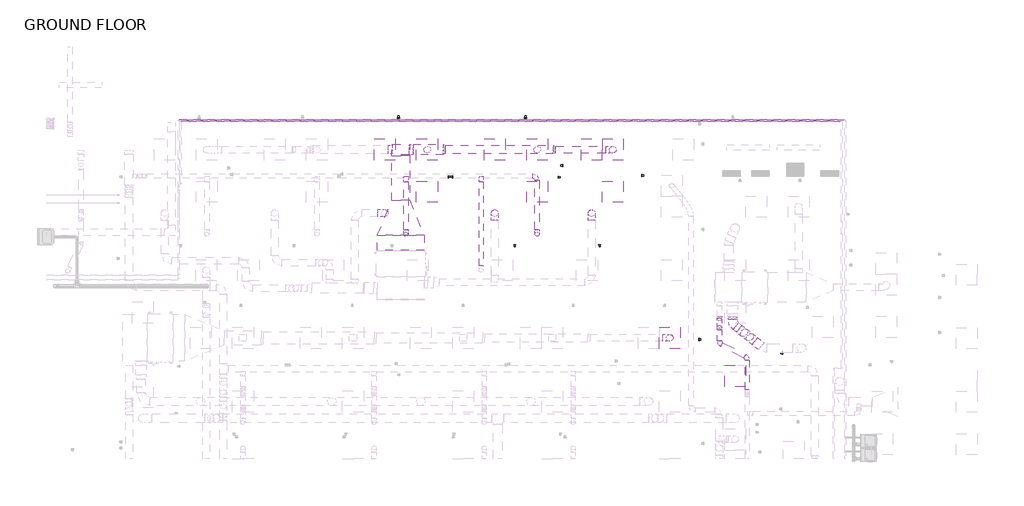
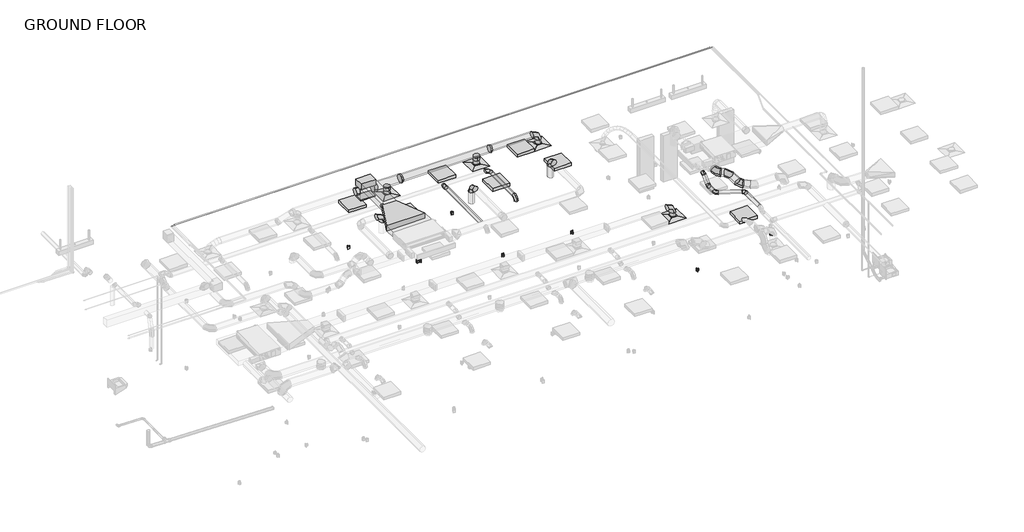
# One storey, part 18 of 21: 26 duct fittings, 25 duct segments, 9 proxies, 7 light fixtures, 4 air terminals, 2 pipe segments, 2 switching devices.
"""IFC4 building model written with IfcOpenShell, lengths in millimetres."""

from ifc_helpers import new_model, si_unit, point, frame, frame_2d, origin, place, context, project, spatial, polyline, circle_curve, trimmed, segment, composite_curve, outline, extrude, transform, mapped, element, save
from components import air_terminal_e9020785, duplex_receptacle_countertop_10251bba, rectangular_elbow_mitered_transition_standard_1af59134, rectangular_endcap_standard_fc39317d, rectangular_transition_angle_45_degree_5314cfe0, round_elbow_1_d_feab72b3, round_elbow_1_d_a253342a, round_elbow_1_d_c80420c1, round_elbow_1_d_ea3dccb8, round_elbow_1_d_af7a7a65, round_elbow_1_d_21bb6db6, round_takeoff_standard_5e8805d5, round_takeoff_standard_98831ccd, round_takeoff_standard_a75a9c41, round_takeoff_standard_ca4b4131, round_takeoff_standard_17dc06e3, round_transition_angle_45_degree_a6ab1efb, round_transition_angle_45_degree_2c0294df, troffer_corner_insert_2x2_3lamp_e67c7f8f

model = new_model("IFC4")

# Units and contexts
model_context = context("Model", 3, world=origin())
ifc_project = project(units=[si_unit("LENGTHUNIT", "METRE", prefix="MILLI")], contexts=[model_context])

# Site, building, storey
site = spatial("IfcSite", under=ifc_project)
building = spatial("IfcBuilding", under=site)
storey = spatial("IfcBuildingStorey", under=building, Name="GROUND FLOOR", Elevation=30480.0)

# Air terminals
placement = place(None, origin())
air_terminal_shape = air_terminal_e9020785(model_context)
element("IfcAirTerminal", 1, ObjectType="Supply Diffuser - Rectangular Face Round Neck - Hosted : 24\"x24\" Face 8\" Neck - Hosted", at=placement, inside=storey, context=model_context, shape_type="MappedRepresentation", body=[
    mapped(air_terminal_shape, transform((6687.5045393, 6811.3695005, 33223.2), x_axis=(0.0, -1.0, 0.0), y_axis=(-1.0, 0.0, 0.0), z_axis=(0.0, 0.0, -1.0))),
])
element("IfcAirTerminal", 2, ObjectType="Supply Diffuser - Rectangular Face Round Neck - Hosted : 24\"x24\" Face 8\" Neck - Hosted", at=placement, inside=storey, context=model_context, shape_type="MappedRepresentation", body=[
    mapped(air_terminal_shape, transform((1334.4545393, 6811.3695005, 33223.2), x_axis=(0.0, -1.0, 0.0), y_axis=(-1.0, 0.0, 0.0), z_axis=(0.0, 0.0, -1.0))),
])
element("IfcAirTerminal", 3, ObjectType="Supply Diffuser - Rectangular Face Round Neck - Hosted : 24\"x24\" Face 8\" Neck - Hosted", at=placement, inside=storey, context=model_context, shape_type="MappedRepresentation", body=[
    mapped(air_terminal_shape, transform((4506.2795393, 6811.3695005, 33223.2), x_axis=(0.0, -1.0, 0.0), y_axis=(-1.0, 0.0, 0.0), z_axis=(0.0, 0.0, -1.0))),
])
element("IfcAirTerminal", 4, ObjectType="Supply Diffuser - Rectangular Face Round Neck - Hosted : 24\"x24\" Face 8\" Neck - Hosted", at=placement, inside=storey, context=model_context, shape_type="MappedRepresentation", body=[
    mapped(air_terminal_shape, transform((8328.8671727, 1382.1195005, 33223.2), x_axis=(0.0, -1.0, 0.0), y_axis=(-1.0, 0.0, 0.0), z_axis=(0.0, 0.0, -1.0))),
])

# Proxies
duplex_receptacle_countertop_shape = duplex_receptacle_countertop_10251bba(model_context)
element("IfcBuildingElementProxy", 5, Name="Duplex Receptacle : Countertop", ObjectType="Duplex Receptacle : Countertop", at=placement, inside=storey, context=model_context, shape_type="MappedRepresentation", body=[
    mapped(duplex_receptacle_countertop_shape, transform((11573.8295393, 941.1895793, 31699.2), x_axis=(0.0, 1.0, 0.0), y_axis=(0.0, 0.0, 1.0), z_axis=(1.0, 0.0, 0.0))),
])
element("IfcBuildingElementProxy", 6, Name="Duplex Receptacle : Standard", ObjectType="Duplex Receptacle : Standard", at=placement, inside=storey, context=model_context, shape_type="MappedRepresentation", body=[
    mapped(duplex_receptacle_countertop_shape, transform((9173.5295393, 1338.7424206, 30937.2), x_axis=(0.0, -1.0, 0.0), y_axis=(0.0, 0.0, 1.0), z_axis=(-1.0, 0.0, 0.0))),
])
element("IfcBuildingElementProxy", 7, Name="Duplex Receptacle : Standard", ObjectType="Duplex Receptacle : Standard", at=placement, inside=storey, context=model_context, shape_type="MappedRepresentation", body=[
    mapped(duplex_receptacle_countertop_shape, transform((512.696222, 7725.7695005, 30937.2), x_axis=(-1.0, 0.0, 0.0), y_axis=(0.0, 0.0, -1.0), z_axis=(0.0, -1.0, 0.0))),
])
element("IfcBuildingElementProxy", 8, Name="Duplex Receptacle : Standard", ObjectType="Duplex Receptacle : Standard", at=placement, inside=storey, context=model_context, shape_type="MappedRepresentation", body=[
    mapped(duplex_receptacle_countertop_shape, transform((2067.8795393, 6025.6008767, 30937.2), x_axis=(0.0, 1.0, 0.0), y_axis=(0.0, 0.0, 1.0), z_axis=(1.0, 0.0, 0.0))),
])
element("IfcBuildingElementProxy", 9, Name="Duplex Receptacle : Standard", ObjectType="Duplex Receptacle : Standard", at=placement, inside=storey, context=model_context, shape_type="MappedRepresentation", body=[
    mapped(duplex_receptacle_countertop_shape, transform((1944.0545393, 6025.6008767, 30937.2), x_axis=(0.0, -1.0, 0.0), y_axis=(0.0, 0.0, 1.0), z_axis=(-1.0, 0.0, 0.0))),
])
element("IfcBuildingElementProxy", 10, Name="Duplex Receptacle : Standard", ObjectType="Duplex Receptacle : Standard", at=placement, inside=storey, context=model_context, shape_type="MappedRepresentation", body=[
    mapped(duplex_receptacle_countertop_shape, transform((4175.0747127, 7725.7695005, 30937.2), x_axis=(-1.0, 0.0, 0.0), y_axis=(0.0, 0.0, -1.0), z_axis=(0.0, -1.0, 0.0))),
])
element("IfcBuildingElementProxy", 11, Name="Duplex Receptacle : Standard", ObjectType="Duplex Receptacle : Standard", at=placement, inside=storey, context=model_context, shape_type="MappedRepresentation", body=[
    mapped(duplex_receptacle_countertop_shape, transform((5115.8795393, 6012.9284472, 30937.2), x_axis=(0.0, -1.0, 0.0), y_axis=(0.0, 0.0, 1.0), z_axis=(-1.0, 0.0, 0.0))),
])
element("IfcBuildingElementProxy", 12, Name="Duplex Receptacle : Standard", ObjectType="Duplex Receptacle : Standard", at=placement, inside=storey, context=model_context, shape_type="MappedRepresentation", body=[
    mapped(duplex_receptacle_countertop_shape, transform((5239.7045393, 6355.0840427, 30937.2), x_axis=(0.0, 1.0, 0.0), y_axis=(0.0, 0.0, 1.0), z_axis=(1.0, 0.0, 0.0))),
])
element("IfcBuildingElementProxy", 13, Name="Duplex Receptacle : Standard", ObjectType="Duplex Receptacle : Standard", at=placement, inside=storey, context=model_context, shape_type="MappedRepresentation", body=[
    mapped(duplex_receptacle_countertop_shape, transform((7525.7045393, 6063.6181651, 30937.2), x_axis=(0.0, -1.0, 0.0), y_axis=(0.0, 0.0, 1.0), z_axis=(-1.0, 0.0, 0.0))),
])

# Duct fittings
rectangular_elbow_mitered_transition_standard_shape = rectangular_elbow_mitered_transition_standard_1af59134(model_context)
element("IfcDuctFitting", 14, ObjectType="Rectangular Elbow - Mitered - Transition : Standard", at=placement, inside=storey, context=model_context, shape_type="MappedRepresentation", body=[
    mapped(rectangular_elbow_mitered_transition_standard_shape, transform((575.9935718, 6811.3695005, 33934.4), x_axis=(0.0, 1.0, 0.0), y_axis=(0.0, 0.0, -1.0), z_axis=(-1.0, 0.0, 0.0))),
])
rectangular_endcap_standard_shape = rectangular_endcap_standard_fc39317d(model_context)
element("IfcDuctFitting", 15, ObjectType="Rectangular Endcap : Standard", at=placement, inside=storey, context=model_context, shape_type="MappedRepresentation", body=[
    mapped(rectangular_endcap_standard_shape, transform((575.9935718, 6811.3695005, 33426.4), x_axis=(0.0, 0.0, -1.0), y_axis=(1.0, 0.0, 0.0), z_axis=(0.0, -1.0, 0.0))),
])
rectangular_transition_angle_45_degree_shape = rectangular_transition_angle_45_degree_5314cfe0(model_context)
element("IfcDuctFitting", 16, ObjectType="Rectangular Transition - Angle : 45 Degree", at=placement, inside=storey, context=model_context, shape_type="MappedRepresentation", body=[
    mapped(rectangular_transition_angle_45_degree_shape, transform((575.9935718, 4334.7022191, 33934.4), x_axis=(0.0, 1.0, 0.0), y_axis=(-1.0, 0.0, 0.0), z_axis=(0.0, 0.0, 1.0))),
])
round_elbow_1_d_shape = round_elbow_1_d_feab72b3(model_context)
element("IfcDuctFitting", 17, ObjectType="Round Elbow : 1 D", at=placement, inside=storey, context=model_context, shape_type="MappedRepresentation", body=[
    mapped(round_elbow_1_d_shape, transform((10137.7468891, 1798.3011879, 33992.34375), x_axis=(0.0, -1.0, 0.0), y_axis=(1.0, 0.0, 0.0), z_axis=(0.0, 0.0, 1.0))),
])
round_elbow_1_d_2_shape = round_elbow_1_d_a253342a(model_context)
element("IfcDuctFitting", 18, ObjectType="Round Elbow : 1 D", at=placement, inside=storey, context=model_context, shape_type="MappedRepresentation", body=[
    mapped(round_elbow_1_d_2_shape, transform((8328.8671727, 1382.1195005, 33604.2), x_axis=(0.0, 0.0, 1.0), y_axis=(-1.0, 0.0, 0.0), z_axis=(0.0, -1.0, 0.0))),
])
element("IfcDuctFitting", 19, ObjectType="Round Elbow : 1 D", at=placement, inside=storey, context=model_context, shape_type="MappedRepresentation", body=[
    mapped(round_elbow_1_d_2_shape, transform((6687.5045393, 6811.3695005, 33629.6), x_axis=(1.0, 0.0, 0.0), y_axis=(0.0, 0.0, -1.0), z_axis=(0.0, 1.0, 0.0))),
])
element("IfcDuctFitting", 20, ObjectType="Round Elbow : 1 D", at=placement, inside=storey, context=model_context, shape_type="MappedRepresentation", body=[
    mapped(round_elbow_1_d_2_shape, transform((115.2545393, 4982.5695005, 33947.89375), x_axis=(0.0, 0.0, 1.0), y_axis=(-1.0, 0.0, 0.0), z_axis=(0.0, -1.0, 0.0))),
])
element("IfcDuctFitting", 21, ObjectType="Round Elbow : 1 D", at=placement, inside=storey, context=model_context, shape_type="MappedRepresentation", body=[
    mapped(round_elbow_1_d_2_shape, transform((6077.9045393, 4982.5695005, 33947.89375), x_axis=(0.0, 0.0, 1.0), y_axis=(0.0, -1.0, 0.0), z_axis=(1.0, 0.0, 0.0))),
])
element("IfcDuctFitting", 22, ObjectType="Round Elbow : 1 D", at=placement, inside=storey, context=model_context, shape_type="MappedRepresentation", body=[
    mapped(round_elbow_1_d_2_shape, transform((3287.0795393, 4982.5695005, 33947.89375), x_axis=(0.0, 0.0, 1.0), y_axis=(0.0, -1.0, 0.0), z_axis=(1.0, 0.0, 0.0))),
])
round_elbow_1_d_3_shape = round_elbow_1_d_c80420c1(model_context)
element("IfcDuctFitting", 23, ObjectType="Round Elbow : 1 D", at=placement, inside=storey, context=model_context, shape_type="MappedRepresentation", body=[
    mapped(round_elbow_1_d_3_shape, transform((4506.2795393, 4372.9695005, 33464.5), x_axis=(0.0, 0.0, 1.0), y_axis=(0.0, 1.0, 0.0), z_axis=(-1.0, 0.0, 0.0))),
])
element("IfcDuctFitting", 24, ObjectType="Round Elbow : 1 D", at=placement, inside=storey, context=model_context, shape_type="MappedRepresentation", body=[
    mapped(round_elbow_1_d_3_shape, transform((724.8545393, 4372.9695005, 33464.5), x_axis=(0.0, -1.0, 0.0), y_axis=(0.0, 0.0, -1.0), z_axis=(1.0, 0.0, 0.0))),
])
element("IfcDuctFitting", 25, ObjectType="Round Elbow : 1 D", at=placement, inside=storey, context=model_context, shape_type="MappedRepresentation", body=[
    mapped(round_elbow_1_d_3_shape, transform((4506.2795393, 6049.3695005, 33464.5), x_axis=(0.0, 1.0, 0.0), y_axis=(-1.0, 0.0, 0.0), z_axis=(0.0, 0.0, 1.0))),
])
round_elbow_1_d_4_shape = round_elbow_1_d_ea3dccb8(model_context)
element("IfcDuctFitting", 26, ObjectType="Round Elbow : 1 D", at=placement, inside=storey, context=model_context, shape_type="MappedRepresentation", body=[
    mapped(round_elbow_1_d_4_shape, transform((10413.0302243, 1581.5402242, 33992.34375), x_axis=(0.7856705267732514, -0.6186451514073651, 0.0), y_axis=(0.0, 0.0, -1.0), z_axis=(0.6186451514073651, 0.7856705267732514, 0.0))),
])
element("IfcDuctFitting", 27, ObjectType="Round Elbow : 1 D", at=placement, inside=storey, context=model_context, shape_type="MappedRepresentation", body=[
    mapped(round_elbow_1_d_4_shape, transform((10698.0272974, 1357.130562, 33629.6), x_axis=(0.5555529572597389, -0.4374481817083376, -0.7071067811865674), y_axis=(0.5555529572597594, -0.4374481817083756, 0.7071067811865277), z_axis=(-0.618645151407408, -0.7856705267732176, 0.0))),
])
round_elbow_1_d_5_shape = round_elbow_1_d_af7a7a65(model_context)
element("IfcDuctFitting", 28, ObjectType="Round Elbow : 1 D", at=placement, inside=storey, context=model_context, shape_type="MappedRepresentation", body=[
    mapped(round_elbow_1_d_5_shape, transform((9756.9865694, 1956.865397, 33992.34375), x_axis=(0.0, -1.0, 0.0), y_axis=(0.0, 0.0, -1.0), z_axis=(1.0, 0.0, 0.0))),
])
element("IfcDuctFitting", 29, ObjectType="Round Elbow : 1 D", at=placement, inside=storey, context=model_context, shape_type="MappedRepresentation", body=[
    mapped(round_elbow_1_d_5_shape, transform((9756.9865694, 1663.3685291, 33705.8), x_axis=(0.0, -0.7155316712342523, -0.698580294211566), y_axis=(0.0, -0.698580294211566, 0.7155316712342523), z_axis=(-1.0, 0.0, 0.0))),
])
round_elbow_1_d_6_shape = round_elbow_1_d_21bb6db6(model_context)
element("IfcDuctFitting", 30, ObjectType="Round Elbow : 1 D", at=placement, inside=storey, context=model_context, shape_type="MappedRepresentation", body=[
    mapped(round_elbow_1_d_6_shape, transform((10560.5577502, 823.3195005, 33705.8), x_axis=(0.0, 1.0, 0.0), y_axis=(-1.0, 0.0, 0.0), z_axis=(0.0, 0.0, 1.0))),
])
element("IfcDuctFitting", 31, ObjectType="Round Elbow : 1 D", at=placement, inside=storey, context=model_context, shape_type="MappedRepresentation", body=[
    mapped(round_elbow_1_d_6_shape, transform((9756.9865694, 1223.9608568, 33705.8), x_axis=(0.0, -1.0, 0.0), y_axis=(0.9999999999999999, 0.0, 0.0), z_axis=(0.0, 0.0, 0.9999999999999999))),
])
round_takeoff_standard_shape = round_takeoff_standard_5e8805d5(model_context)
element("IfcDuctFitting", 32, ObjectType="Round Takeoff : Standard", at=placement, inside=storey, context=model_context, shape_type="MappedRepresentation", body=[
    mapped(round_takeoff_standard_shape, transform((829.9935718, 6811.3695005, 33629.6), x_axis=(1.0, 0.0, 0.0), y_axis=(0.0, 0.0, 1.0), z_axis=(0.0, -1.0, 0.0))),
])
round_takeoff_standard_2_shape = round_takeoff_standard_98831ccd(model_context)
element("IfcDuctFitting", 33, ObjectType="Round Takeoff : Standard", at=placement, inside=storey, context=model_context, shape_type="MappedRepresentation", body=[
    mapped(round_takeoff_standard_2_shape, transform((321.9935718, 6811.3695005, 33680.0490295), x_axis=(-1.0, 0.0, 0.0), y_axis=(0.0, 0.0, 1.0), z_axis=(0.0, 1.0, 0.0))),
])
round_takeoff_standard_3_shape = round_takeoff_standard_a75a9c41(model_context)
element("IfcDuctFitting", 34, ObjectType="Round Takeoff : Standard", at=placement, inside=storey, context=model_context, shape_type="MappedRepresentation", body=[
    mapped(round_takeoff_standard_3_shape, transform((1334.4545393, 6811.3695005, 33477.2), x_axis=(0.0, 0.0, -1.0), y_axis=(1.0, 0.0, 0.0), z_axis=(0.0, -1.0, 0.0))),
])
round_takeoff_standard_4_shape = round_takeoff_standard_ca4b4131(model_context)
element("IfcDuctFitting", 35, ObjectType="Round Takeoff : Standard", at=placement, inside=storey, context=model_context, shape_type="MappedRepresentation", body=[
    mapped(round_takeoff_standard_4_shape, transform((4506.2795393, 6811.3695005, 33502.6), x_axis=(0.0, 0.0, -1.0), y_axis=(1.0, 0.0, 0.0), z_axis=(0.0, -1.0, 0.0))),
])
round_takeoff_standard_5_shape = round_takeoff_standard_17dc06e3(model_context)
element("IfcDuctFitting", 36, ObjectType="Round Takeoff : Standard", at=placement, inside=storey, context=model_context, shape_type="MappedRepresentation", body=[
    mapped(round_takeoff_standard_5_shape, transform((2896.5545393, 5985.8695005, 33464.5), x_axis=(0.0, -1.0, 0.0), y_axis=(-1.0, 0.0, 0.0), z_axis=(0.0, 0.0, -1.0))),
])
element("IfcDuctFitting", 37, ObjectType="Round Takeoff : Standard", at=placement, inside=storey, context=model_context, shape_type="MappedRepresentation", body=[
    mapped(round_takeoff_standard_5_shape, transform((724.8545393, 5985.8695005, 33464.5), x_axis=(0.0, -1.0, 0.0), y_axis=(-1.0, 0.0, 0.0), z_axis=(0.0, 0.0, -1.0))),
])
round_transition_angle_45_degree_shape = round_transition_angle_45_degree_a6ab1efb(model_context)
element("IfcDuctFitting", 38, ObjectType="Round Transition - Angle : 45 Degree", at=placement, inside=storey, context=model_context, shape_type="MappedRepresentation", body=[
    mapped(round_transition_angle_45_degree_shape, transform((1795.1935718, 6811.3695005, 33629.6), x_axis=(1.0, 0.0, 0.0), y_axis=(0.0, 1.0, 0.0), z_axis=(0.0, 0.0, 1.0))),
])
round_transition_angle_45_degree_2_shape = round_transition_angle_45_degree_2c0294df(model_context)
element("IfcDuctFitting", 39, ObjectType="Round Transition - Angle : 45 Degree", at=placement, inside=storey, context=model_context, shape_type="MappedRepresentation", body=[
    mapped(round_transition_angle_45_degree_2_shape, transform((4970.1935718, 6811.3695005, 33629.6), x_axis=(1.0, 0.0, 0.0), y_axis=(0.0, 1.0, 0.0), z_axis=(0.0, 0.0, 1.0))),
])

# Duct segments
element("IfcDuctSegment", 40, ObjectType="Mitered Elbows / Taps", at=placement, inside=storey, context=model_context, shape_type="SweptSolid", body=[
    extrude(outline(polyline([(829.9935718, 5346.4991231), (321.9935718, 5346.4991231), (321.9935718, 6633.5695005), (829.9935718, 6633.5695005), (829.9935718, 5346.4991231)])), frame((0.0, 0.0, 33832.8), z_axis=(0.0, 0.0, 1.0), x_axis=(1.0, 0.0, 0.0)), (0.0, 0.0, 1.0), 203.2),
])
element("IfcDuctSegment", 41, ObjectType="Mitered Elbows / Taps", at=placement, inside=storey, context=model_context, shape_type="SweptSolid", body=[
    extrude(outline(polyline([(829.9935718, 6963.7695005), (829.9935718, 6658.9695005), (321.9935718, 6658.9695005), (321.9935718, 6963.7695005), (829.9935718, 6963.7695005)])), frame((0.0, 0.0, 33426.4), z_axis=(0.0, 0.0, 1.0), x_axis=(1.0, 0.0, 0.0)), (0.0, 0.0, 1.0), 381.0),
])
element("IfcDuctSegment", 42, ObjectType="Mitered Elbows / Taps", at=placement, inside=storey, context=model_context, shape_type="SweptSolid", body=[
    extrude(outline(polyline([(1249.0935718, 3902.9022191), (-97.1064282, 3902.9022191), (-97.1064282, 4334.7022191), (1249.0935718, 4334.7022191), (1249.0935718, 3902.9022191)])), frame((0.0, 0.0, 33832.8), z_axis=(0.0, 0.0, 1.0), x_axis=(1.0, 0.0, 0.0)), (0.0, 0.0, 1.0), 203.2),
])
element("IfcDuctSegment", 43, ObjectType="Taps / Short Radius", at=placement, inside=storey, context=model_context, shape_type="SweptSolid", body=[
    extrude(outline(composite_curve([segment(trimmed(circle_curve(frame_2d((8328.8671727, 1382.1195005)), 101.6), [point((8328.8671727, 1483.7195005))], [point((8430.4671727, 1382.1195005))], False, "CARTESIAN"), True, "CONTINUOUS"), segment(trimmed(circle_curve(frame_2d((8328.8671727, 1382.1195005)), 101.6), [point((8430.4671727, 1382.1195005))], [point((8328.8671727, 1280.5195005))], False, "CARTESIAN"), True, "CONTINUOUS"), segment(trimmed(circle_curve(frame_2d((8328.8671727, 1382.1195005)), 101.6), [point((8328.8671727, 1280.5195005))], [point((8227.2671727, 1382.1195005))], False, "CARTESIAN"), True, "CONTINUOUS"), segment(trimmed(circle_curve(frame_2d((8328.8671727, 1382.1195005)), 101.6), [point((8227.2671727, 1382.1195005))], [point((8328.8671727, 1483.7195005))], False, "CARTESIAN"), True, "CONTINUOUS")], self_intersect=False)), frame((0.0, 0.0, 33277.175), z_axis=(0.0, 0.0, 1.0), x_axis=(1.0, 0.0, 0.0)), (0.0, 0.0, 1.0), 123.825),
])
element("IfcDuctSegment", 44, ObjectType="Taps / Short Radius", at=placement, inside=storey, context=model_context, shape_type="SweptSolid", body=[
    extrude(outline(composite_curve([segment(trimmed(circle_curve(frame_2d((6811.3695005, 33629.6)), 152.4), [point((6658.9695005, 33629.6))], [point((6811.3695005, 33782.0))], False, "CARTESIAN"), True, "CONTINUOUS"), segment(trimmed(circle_curve(frame_2d((6811.3695005, 33629.6)), 152.4), [point((6811.3695005, 33782.0))], [point((6963.7695005, 33629.6))], False, "CARTESIAN"), True, "CONTINUOUS"), segment(trimmed(circle_curve(frame_2d((6811.3695005, 33629.6)), 152.4), [point((6963.7695005, 33629.6))], [point((6811.3695005, 33477.2))], False, "CARTESIAN"), True, "CONTINUOUS"), segment(trimmed(circle_curve(frame_2d((6811.3695005, 33629.6)), 152.4), [point((6811.3695005, 33477.2))], [point((6658.9695005, 33629.6))], False, "CARTESIAN"), True, "CONTINUOUS")], self_intersect=False)), frame((931.5935718, 0.0, 0.0), z_axis=(1.0, 0.0, 0.0), x_axis=(0.0, 1.0, 0.0)), (0.0, 0.0, 1.0), 863.6),
])
element("IfcDuctSegment", 45, ObjectType="Taps / Short Radius", at=placement, inside=storey, context=model_context, shape_type="SweptSolid", body=[
    extrude(outline(composite_curve([segment(trimmed(circle_curve(frame_2d((6811.3695005, 33629.6)), 127.0), [point((6684.3695005, 33629.6))], [point((6811.3695005, 33756.6))], False, "CARTESIAN"), True, "CONTINUOUS"), segment(trimmed(circle_curve(frame_2d((6811.3695005, 33629.6)), 127.0), [point((6811.3695005, 33756.6))], [point((6938.3695005, 33629.6))], False, "CARTESIAN"), True, "CONTINUOUS"), segment(trimmed(circle_curve(frame_2d((6811.3695005, 33629.6)), 127.0), [point((6938.3695005, 33629.6))], [point((6811.3695005, 33502.6))], False, "CARTESIAN"), True, "CONTINUOUS"), segment(trimmed(circle_curve(frame_2d((6811.3695005, 33629.6)), 127.0), [point((6811.3695005, 33502.6))], [point((6684.3695005, 33629.6))], False, "CARTESIAN"), True, "CONTINUOUS")], self_intersect=False)), frame((1856.5145963, 0.0, 0.0), z_axis=(1.0, 0.0, 0.0), x_axis=(0.0, 1.0, 0.0)), (0.0, 0.0, 1.0), 3113.6789755),
])
element("IfcDuctSegment", 46, ObjectType="Taps / Short Radius", at=placement, inside=storey, context=model_context, shape_type="SweptSolid", body=[
    extrude(outline(composite_curve([segment(trimmed(circle_curve(frame_2d((6811.3695005, 33629.6)), 101.6), [point((6709.7695005, 33629.6))], [point((6811.3695005, 33731.2))], False, "CARTESIAN"), True, "CONTINUOUS"), segment(trimmed(circle_curve(frame_2d((6811.3695005, 33629.6)), 101.6), [point((6811.3695005, 33731.2))], [point((6912.9695005, 33629.6))], False, "CARTESIAN"), True, "CONTINUOUS"), segment(trimmed(circle_curve(frame_2d((6811.3695005, 33629.6)), 101.6), [point((6912.9695005, 33629.6))], [point((6811.3695005, 33528.0))], False, "CARTESIAN"), True, "CONTINUOUS"), segment(trimmed(circle_curve(frame_2d((6811.3695005, 33629.6)), 101.6), [point((6811.3695005, 33528.0))], [point((6709.7695005, 33629.6))], False, "CARTESIAN"), True, "CONTINUOUS")], self_intersect=False)), frame((5031.5145963, 0.0, 0.0), z_axis=(1.0, 0.0, 0.0), x_axis=(0.0, 1.0, 0.0)), (0.0, 0.0, 1.0), 1452.789943),
])
element("IfcDuctSegment", 47, ObjectType="Taps / Short Radius", at=placement, inside=storey, context=model_context, shape_type="SweptSolid", body=[
    extrude(outline(composite_curve([segment(trimmed(circle_curve(frame_2d((6687.5045393, 6811.3695005)), 101.6), [point((6687.5045393, 6912.9695005))], [point((6789.1045393, 6811.3695005))], False, "CARTESIAN"), True, "CONTINUOUS"), segment(trimmed(circle_curve(frame_2d((6687.5045393, 6811.3695005)), 101.6), [point((6789.1045393, 6811.3695005))], [point((6687.5045393, 6709.7695005))], False, "CARTESIAN"), True, "CONTINUOUS"), segment(trimmed(circle_curve(frame_2d((6687.5045393, 6811.3695005)), 101.6), [point((6687.5045393, 6709.7695005))], [point((6585.9045393, 6811.3695005))], False, "CARTESIAN"), True, "CONTINUOUS"), segment(trimmed(circle_curve(frame_2d((6687.5045393, 6811.3695005)), 101.6), [point((6585.9045393, 6811.3695005))], [point((6687.5045393, 6912.9695005))], False, "CARTESIAN"), True, "CONTINUOUS")], self_intersect=False)), frame((0.0, 0.0, 33277.175), z_axis=(0.0, 0.0, 1.0), x_axis=(1.0, 0.0, 0.0)), (0.0, 0.0, 1.0), 149.225),
])
element("IfcDuctSegment", 48, ObjectType="Taps / Short Radius", at=placement, inside=storey, context=model_context, shape_type="SweptSolid", body=[
    extrude(outline(composite_curve([segment(trimmed(circle_curve(frame_2d((4506.2795393, 6811.3695005)), 101.6), [point((4607.8795393, 6811.3695005))], [point((4506.2795393, 6709.7695005))], False, "CARTESIAN"), True, "CONTINUOUS"), segment(trimmed(circle_curve(frame_2d((4506.2795393, 6811.3695005)), 101.6), [point((4506.2795393, 6709.7695005))], [point((4404.6795393, 6811.3695005))], False, "CARTESIAN"), True, "CONTINUOUS"), segment(trimmed(circle_curve(frame_2d((4506.2795393, 6811.3695005)), 101.6), [point((4404.6795393, 6811.3695005))], [point((4506.2795393, 6912.9695005))], False, "CARTESIAN"), True, "CONTINUOUS"), segment(trimmed(circle_curve(frame_2d((4506.2795393, 6811.3695005)), 101.6), [point((4506.2795393, 6912.9695005))], [point((4607.8795393, 6811.3695005))], False, "CARTESIAN"), True, "CONTINUOUS")], self_intersect=False)), frame((0.0, 0.0, 33277.175), z_axis=(0.0, 0.0, 1.0), x_axis=(1.0, 0.0, 0.0)), (0.0, 0.0, 1.0), 123.825),
])
element("IfcDuctSegment", 49, ObjectType="Taps / Short Radius", at=placement, inside=storey, context=model_context, shape_type="SweptSolid", body=[
    extrude(outline(composite_curve([segment(trimmed(circle_curve(frame_2d((1334.4545393, 6811.3695005)), 101.6), [point((1436.0545393, 6811.3695005))], [point((1334.4545393, 6709.7695005))], False, "CARTESIAN"), True, "CONTINUOUS"), segment(trimmed(circle_curve(frame_2d((1334.4545393, 6811.3695005)), 101.6), [point((1334.4545393, 6709.7695005))], [point((1232.8545393, 6811.3695005))], False, "CARTESIAN"), True, "CONTINUOUS"), segment(trimmed(circle_curve(frame_2d((1334.4545393, 6811.3695005)), 101.6), [point((1232.8545393, 6811.3695005))], [point((1334.4545393, 6912.9695005))], False, "CARTESIAN"), True, "CONTINUOUS"), segment(trimmed(circle_curve(frame_2d((1334.4545393, 6811.3695005)), 101.6), [point((1334.4545393, 6912.9695005))], [point((1436.0545393, 6811.3695005))], False, "CARTESIAN"), True, "CONTINUOUS")], self_intersect=False)), frame((0.0, 0.0, 33277.175), z_axis=(0.0, 0.0, 1.0), x_axis=(1.0, 0.0, 0.0)), (0.0, 0.0, 1.0), 98.425),
])
element("IfcDuctSegment", 50, ObjectType="Taps / Short Radius", at=placement, inside=storey, context=model_context, shape_type="SweptSolid", body=[
    extrude(outline(composite_curve([segment(trimmed(circle_curve(frame_2d((6077.9045393, 4982.5695005)), 101.6), [point((5976.3045393, 4982.5695005))], [point((6077.9045393, 5084.1695005))], False, "CARTESIAN"), True, "CONTINUOUS"), segment(trimmed(circle_curve(frame_2d((6077.9045393, 4982.5695005)), 101.6), [point((6077.9045393, 5084.1695005))], [point((6179.5045393, 4982.5695005))], False, "CARTESIAN"), True, "CONTINUOUS"), segment(trimmed(circle_curve(frame_2d((6077.9045393, 4982.5695005)), 101.6), [point((6179.5045393, 4982.5695005))], [point((6077.9045393, 4880.9695005))], False, "CARTESIAN"), True, "CONTINUOUS"), segment(trimmed(circle_curve(frame_2d((6077.9045393, 4982.5695005)), 101.6), [point((6077.9045393, 4880.9695005))], [point((5976.3045393, 4982.5695005))], False, "CARTESIAN"), True, "CONTINUOUS")], self_intersect=False)), frame((0.0, 0.0, 33324.8), z_axis=(0.0, 0.0, 1.0), x_axis=(1.0, 0.0, 0.0)), (0.0, 0.0, 1.0), 419.89375),
])
element("IfcDuctSegment", 51, ObjectType="Taps / Short Radius", at=placement, inside=storey, context=model_context, shape_type="SweptSolid", body=[
    extrude(outline(composite_curve([segment(trimmed(circle_curve(frame_2d((3287.0795393, 4982.5695005)), 101.6), [point((3185.4795393, 4982.5695005))], [point((3287.0795393, 5084.1695005))], False, "CARTESIAN"), True, "CONTINUOUS"), segment(trimmed(circle_curve(frame_2d((3287.0795393, 4982.5695005)), 101.6), [point((3287.0795393, 5084.1695005))], [point((3388.6795393, 4982.5695005))], False, "CARTESIAN"), True, "CONTINUOUS"), segment(trimmed(circle_curve(frame_2d((3287.0795393, 4982.5695005)), 101.6), [point((3388.6795393, 4982.5695005))], [point((3287.0795393, 4880.9695005))], False, "CARTESIAN"), True, "CONTINUOUS"), segment(trimmed(circle_curve(frame_2d((3287.0795393, 4982.5695005)), 101.6), [point((3287.0795393, 4880.9695005))], [point((3185.4795393, 4982.5695005))], False, "CARTESIAN"), True, "CONTINUOUS")], self_intersect=False)), frame((0.0, 0.0, 33324.8), z_axis=(0.0, 0.0, 1.0), x_axis=(1.0, 0.0, 0.0)), (0.0, 0.0, 1.0), 419.89375),
])
element("IfcDuctSegment", 52, ObjectType="Taps / Short Radius", at=placement, inside=storey, context=model_context, shape_type="SweptSolid", body=[
    extrude(outline(composite_curve([segment(trimmed(circle_curve(frame_2d((0.0, -63.5)), 63.5), [point((-63.5, -63.5))], [point((0.0, 0.0))], False, "CARTESIAN"), True, "CONTINUOUS"), segment(trimmed(circle_curve(frame_2d((0.0, -63.5)), 63.5), [point((0.0, 0.0))], [point((63.5, -63.5))], False, "CARTESIAN"), True, "CONTINUOUS"), segment(trimmed(circle_curve(frame_2d((0.0, -63.5)), 63.5), [point((63.5, -63.5))], [point((0.0, -127.0))], False, "CARTESIAN"), True, "CONTINUOUS"), segment(trimmed(circle_curve(frame_2d((0.0, -63.5)), 63.5), [point((0.0, -127.0))], [point((-63.5, -63.5))], False, "CARTESIAN"), True, "CONTINUOUS")], self_intersect=False)), frame((9756.9865694, 1744.7325056, 33696.4912166), z_axis=(0.0, 0.7155316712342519, 0.6985802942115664), x_axis=(1.0, 0.0, 0.0)), (0.0, 0.0, 1.0), 306.7489826),
])
element("IfcDuctSegment", 53, ObjectType="Taps / Short Radius", at=placement, inside=storey, context=model_context, shape_type="SweptSolid", body=[
    extrude(outline(composite_curve([segment(trimmed(circle_curve(frame_2d((33705.8, 10560.5577502)), 63.5), [point((33705.8, 10624.0577502))], [point((33769.3, 10560.5577502))], False, "CARTESIAN"), True, "CONTINUOUS"), segment(trimmed(circle_curve(frame_2d((33705.8, 10560.5577502)), 63.5), [point((33769.3, 10560.5577502))], [point((33705.8, 10497.0577502))], False, "CARTESIAN"), True, "CONTINUOUS"), segment(trimmed(circle_curve(frame_2d((33705.8, 10560.5577502)), 63.5), [point((33705.8, 10497.0577502))], [point((33642.3, 10560.5577502))], False, "CARTESIAN"), True, "CONTINUOUS"), segment(trimmed(circle_curve(frame_2d((33705.8, 10560.5577502)), 63.5), [point((33642.3, 10560.5577502))], [point((33705.8, 10624.0577502))], False, "CARTESIAN"), True, "CONTINUOUS")], self_intersect=False)), frame((0.0, -104.3657402, 0.0), z_axis=(0.0, 1.0, 0.0), x_axis=(0.0, 0.0, 1.0)), (0.0, 0.0, 1.0), 849.0948661),
])
element("IfcDuctSegment", 54, ObjectType="Taps / Short Radius", at=placement, inside=storey, context=model_context, shape_type="SweptSolid", body=[
    extrude(outline(composite_curve([segment(trimmed(circle_curve(frame_2d((0.0, 63.5)), 63.5), [point((63.4999999, 63.5))], [point((0.0, 0.0))], False, "CARTESIAN"), True, "CONTINUOUS"), segment(trimmed(circle_curve(frame_2d((0.0, 63.5)), 63.5), [point((0.0, 0.0))], [point((-63.5, 63.5))], False, "CARTESIAN"), True, "CONTINUOUS"), segment(trimmed(circle_curve(frame_2d((0.0, 63.5)), 63.5), [point((-63.5, 63.5))], [point((0.0, 127.0))], False, "CARTESIAN"), True, "CONTINUOUS"), segment(trimmed(circle_curve(frame_2d((0.0, 63.5)), 63.5), [point((0.0, 127.0))], [point((63.4999999, 63.5))], False, "CARTESIAN"), True, "CONTINUOUS")], self_intersect=False)), frame((10490.2243678, 858.3860415, 33769.3), z_axis=(-0.8949363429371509, 0.44619383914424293, 0.0), x_axis=(0.44619383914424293, 0.8949363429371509, 0.0)), (0.0, 0.0, 1.0), 740.7280095),
])
element("IfcDuctSegment", 55, ObjectType="Taps / Short Radius", at=placement, inside=storey, context=model_context, shape_type="SweptSolid", body=[
    extrude(outline(composite_curve([segment(trimmed(circle_curve(frame_2d((33705.8, 9756.9865694)), 63.5), [point((33705.8, 9693.4865694))], [point((33642.3, 9756.9865694))], False, "CARTESIAN"), True, "CONTINUOUS"), segment(trimmed(circle_curve(frame_2d((33705.8, 9756.9865694)), 63.5), [point((33642.3, 9756.9865694))], [point((33705.8, 9820.4865694))], False, "CARTESIAN"), True, "CONTINUOUS"), segment(trimmed(circle_curve(frame_2d((33705.8, 9756.9865694)), 63.5), [point((33705.8, 9820.4865694))], [point((33769.3, 9756.9865694))], False, "CARTESIAN"), True, "CONTINUOUS"), segment(trimmed(circle_curve(frame_2d((33705.8, 9756.9865694)), 63.5), [point((33769.3, 9756.9865694))], [point((33705.8, 9693.4865694))], False, "CARTESIAN"), True, "CONTINUOUS")], self_intersect=False)), frame((0.0, 1302.5512314, 0.0), z_axis=(0.0, 1.0, 0.0), x_axis=(0.0, 0.0, 1.0)), (0.0, 0.0, 1.0), 309.1017282),
])
element("IfcDuctSegment", 56, ObjectType="Taps / Short Radius", at=placement, inside=storey, context=model_context, shape_type="SweptSolid", body=[
    extrude(outline(composite_curve([segment(trimmed(circle_curve(frame_2d((33464.5, 4506.2795393)), 63.5), [point((33464.5, 4569.7795393))], [point((33528.0, 4506.2795393))], False, "CARTESIAN"), True, "CONTINUOUS"), segment(trimmed(circle_curve(frame_2d((33464.5, 4506.2795393)), 63.5), [point((33528.0, 4506.2795393))], [point((33464.5, 4442.7795393))], False, "CARTESIAN"), True, "CONTINUOUS"), segment(trimmed(circle_curve(frame_2d((33464.5, 4506.2795393)), 63.5), [point((33464.5, 4442.7795393))], [point((33401.0, 4506.2795393))], False, "CARTESIAN"), True, "CONTINUOUS"), segment(trimmed(circle_curve(frame_2d((33464.5, 4506.2795393)), 63.5), [point((33401.0, 4506.2795393))], [point((33464.5, 4569.7795393))], False, "CARTESIAN"), True, "CONTINUOUS")], self_intersect=False)), frame((0.0, 4499.9695005, 0.0), z_axis=(0.0, 1.0, 0.0), x_axis=(0.0, 0.0, 1.0)), (0.0, 0.0, 1.0), 1422.4),
])
element("IfcDuctSegment", 57, ObjectType="Taps / Short Radius", at=placement, inside=storey, context=model_context, shape_type="SweptSolid", body=[
    extrude(outline(composite_curve([segment(trimmed(circle_curve(frame_2d((4506.2795393, 4372.9695005)), 63.5), [point((4569.7795393, 4372.9695005))], [point((4506.2795393, 4309.4695005))], False, "CARTESIAN"), True, "CONTINUOUS"), segment(trimmed(circle_curve(frame_2d((4506.2795393, 4372.9695005)), 63.5), [point((4506.2795393, 4309.4695005))], [point((4442.7795393, 4372.9695005))], False, "CARTESIAN"), True, "CONTINUOUS"), segment(trimmed(circle_curve(frame_2d((4506.2795393, 4372.9695005)), 63.5), [point((4442.7795393, 4372.9695005))], [point((4506.2795393, 4436.4695005))], False, "CARTESIAN"), True, "CONTINUOUS"), segment(trimmed(circle_curve(frame_2d((4506.2795393, 4372.9695005)), 63.5), [point((4506.2795393, 4436.4695005))], [point((4569.7795393, 4372.9695005))], False, "CARTESIAN"), True, "CONTINUOUS")], self_intersect=False)), frame((0.0, 0.0, 33324.8), z_axis=(0.0, 0.0, 1.0), x_axis=(1.0, 0.0, 0.0)), (0.0, 0.0, 1.0), 12.7),
])
element("IfcDuctSegment", 58, ObjectType="Taps / Short Radius", at=placement, inside=storey, context=model_context, shape_type="SweptSolid", body=[
    extrude(outline(composite_curve([segment(trimmed(circle_curve(frame_2d((33464.5, 2896.5545393)), 63.5), [point((33464.5, 2833.0545393))], [point((33401.0, 2896.5545393))], False, "CARTESIAN"), True, "CONTINUOUS"), segment(trimmed(circle_curve(frame_2d((33464.5, 2896.5545393)), 63.5), [point((33401.0, 2896.5545393))], [point((33464.5, 2960.0545393))], False, "CARTESIAN"), True, "CONTINUOUS"), segment(trimmed(circle_curve(frame_2d((33464.5, 2896.5545393)), 63.5), [point((33464.5, 2960.0545393))], [point((33528.0, 2896.5545393))], False, "CARTESIAN"), True, "CONTINUOUS"), segment(trimmed(circle_curve(frame_2d((33464.5, 2896.5545393)), 63.5), [point((33528.0, 2896.5545393))], [point((33464.5, 2833.0545393))], False, "CARTESIAN"), True, "CONTINUOUS")], self_intersect=False)), frame((0.0, 3461.7445005, 0.0), z_axis=(0.0, 1.0, 0.0), x_axis=(0.0, 0.0, 1.0)), (0.0, 0.0, 1.0), 2422.525),
])
element("IfcDuctSegment", 59, ObjectType="Taps / Short Radius", at=placement, inside=storey, context=model_context, shape_type="SweptSolid", body=[
    extrude(outline(composite_curve([segment(trimmed(circle_curve(frame_2d((0.0, 63.5)), 63.5), [point((-63.5, 63.5))], [point((0.0, 127.0))], False, "CARTESIAN"), True, "CONTINUOUS"), segment(trimmed(circle_curve(frame_2d((0.0, 63.5)), 63.5), [point((0.0, 127.0))], [point((63.5, 63.5))], False, "CARTESIAN"), True, "CONTINUOUS"), segment(trimmed(circle_curve(frame_2d((0.0, 63.5)), 63.5), [point((63.5, 63.5))], [point((0.0, 0.0))], False, "CARTESIAN"), True, "CONTINUOUS"), segment(trimmed(circle_curve(frame_2d((0.0, 63.5)), 63.5), [point((0.0, 0.0))], [point((-63.5, 63.5))], False, "CARTESIAN"), True, "CONTINUOUS")], self_intersect=False)), frame((724.8545393, 4309.4695005, 33324.8), z_axis=(0.0, -1.0231815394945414e-12, 1.0), x_axis=(1.0, 0.0, 0.0)), (0.0, 0.0, 1.0), 12.7),
])
element("IfcDuctSegment", 60, ObjectType="Taps / Short Radius", at=placement, inside=storey, context=model_context, shape_type="SweptSolid", body=[
    extrude(outline(composite_curve([segment(trimmed(circle_curve(frame_2d((33464.5, 724.8545393)), 63.5), [point((33464.5, 661.3545393))], [point((33401.0, 724.8545393))], False, "CARTESIAN"), True, "CONTINUOUS"), segment(trimmed(circle_curve(frame_2d((33464.5, 724.8545393)), 63.5), [point((33401.0, 724.8545393))], [point((33464.5, 788.3545393))], False, "CARTESIAN"), True, "CONTINUOUS"), segment(trimmed(circle_curve(frame_2d((33464.5, 724.8545393)), 63.5), [point((33464.5, 788.3545393))], [point((33528.0, 724.8545393))], False, "CARTESIAN"), True, "CONTINUOUS"), segment(trimmed(circle_curve(frame_2d((33464.5, 724.8545393)), 63.5), [point((33528.0, 724.8545393))], [point((33464.5, 661.3545393))], False, "CARTESIAN"), True, "CONTINUOUS")], self_intersect=False)), frame((0.0, 4499.9695005, 0.0), z_axis=(0.0, 1.0, 0.0), x_axis=(0.0, 0.0, 1.0)), (0.0, 0.0, 1.0), 1384.3),
])
element("IfcDuctSegment", 61, ObjectType="Taps / Short Radius", at=placement, inside=storey, context=model_context, shape_type="SweptSolid", body=[
    extrude(outline(composite_curve([segment(trimmed(circle_curve(frame_2d((33992.34375, 10137.7468891)), 127.0), [point((33992.34375, 10010.7468891))], [point((33865.34375, 10137.7468891))], False, "CARTESIAN"), True, "CONTINUOUS"), segment(trimmed(circle_curve(frame_2d((33992.34375, 10137.7468891)), 127.0), [point((33865.34375, 10137.7468891))], [point((33992.34375, 10264.7468891))], False, "CARTESIAN"), True, "CONTINUOUS"), segment(trimmed(circle_curve(frame_2d((33992.34375, 10137.7468891)), 127.0), [point((33992.34375, 10264.7468891))], [point((34119.34375, 10137.7468891))], False, "CARTESIAN"), True, "CONTINUOUS"), segment(trimmed(circle_curve(frame_2d((33992.34375, 10137.7468891)), 127.0), [point((34119.34375, 10137.7468891))], [point((33992.34375, 10010.7468891))], False, "CARTESIAN"), True, "CONTINUOUS")], self_intersect=False)), frame((0.0, 1921.5896762, 0.0), z_axis=(0.0, 1.0, 0.0), x_axis=(0.0, 0.0, 1.0)), (0.0, 0.0, 1.0), 70.2941841),
])
element("IfcDuctSegment", 62, ObjectType="Taps / Short Radius", at=placement, inside=storey, context=model_context, shape_type="SweptSolid", body=[
    extrude(outline(composite_curve([segment(trimmed(circle_curve(frame_2d((0.0, -127.0)), 127.0), [point((-127.0, -127.0))], [point((0.0, 0.0))], False, "CARTESIAN"), True, "CONTINUOUS"), segment(trimmed(circle_curve(frame_2d((0.0, -127.0)), 127.0), [point((0.0, 0.0))], [point((127.0, -127.0))], False, "CARTESIAN"), True, "CONTINUOUS"), segment(trimmed(circle_curve(frame_2d((0.0, -127.0)), 127.0), [point((127.0, -127.0))], [point((0.0, -254.0))], False, "CARTESIAN"), True, "CONTINUOUS"), segment(trimmed(circle_curve(frame_2d((0.0, -127.0)), 127.0), [point((0.0, -254.0))], [point((-127.0, -127.0))], False, "CARTESIAN"), True, "CONTINUOUS")], self_intersect=False)), frame((10968.1169136, 1144.4591867, 33502.6), z_axis=(-0.7856705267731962, 0.6186451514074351, 0.0), x_axis=(0.6186451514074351, 0.7856705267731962, 0.0)), (0.0, 0.0, 1.0), 238.5593213),
])
element("IfcDuctSegment", 63, ObjectType="Taps / Short Radius", at=placement, inside=storey, context=model_context, shape_type="SweptSolid", body=[
    extrude(outline(composite_curve([segment(trimmed(circle_curve(frame_2d((0.0, -127.0)), 127.0), [point((-127.0, -127.0))], [point((0.0, 0.0))], False, "CARTESIAN"), True, "CONTINUOUS"), segment(trimmed(circle_curve(frame_2d((0.0, -127.0)), 127.0), [point((0.0, 0.0))], [point((127.0, -127.0))], False, "CARTESIAN"), True, "CONTINUOUS"), segment(trimmed(circle_curve(frame_2d((0.0, -127.0)), 127.0), [point((127.0, -127.0))], [point((0.0, -254.0))], False, "CARTESIAN"), True, "CONTINUOUS"), segment(trimmed(circle_curve(frame_2d((0.0, -127.0)), 127.0), [point((0.0, -254.0))], [point((-127.0, -127.0))], False, "CARTESIAN"), True, "CONTINUOUS")], self_intersect=False)), frame((10330.3696358, 1646.628032, 33865.34375), z_axis=(-0.7856705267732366, 0.6186451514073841, 0.0), x_axis=(0.6186451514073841, 0.7856705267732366, 0.0)), (0.0, 0.0, 1.0), 121.8813891),
])
element("IfcDuctSegment", 64, ObjectType="Taps / Short Radius", at=placement, inside=storey, context=model_context, shape_type="SweptSolid", body=[
    extrude(outline(composite_curve([segment(trimmed(circle_curve(frame_2d((0.0, -127.0)), 127.0), [point((94.4915392, -42.1451298))], [point((84.8548703, -221.4915393))], False, "CARTESIAN"), True, "CONTINUOUS"), segment(trimmed(circle_curve(frame_2d((0.0, -127.0)), 127.0), [point((84.8548703, -221.4915393))], [point((-94.4915392, -211.8548703))], False, "CARTESIAN"), True, "CONTINUOUS"), segment(trimmed(circle_curve(frame_2d((0.0, -127.0)), 127.0), [point((-94.4915392, -211.8548703))], [point((-84.8548703, -32.5084608))], False, "CARTESIAN"), True, "CONTINUOUS"), segment(trimmed(circle_curve(frame_2d((0.0, -127.0)), 127.0), [point((-84.8548703, -32.5084608))], [point((94.4915392, -42.1451298))], False, "CARTESIAN"), True, "CONTINUOUS")], self_intersect=False)), frame((10639.5774348, 1511.157715, 33637.1792694), z_axis=(-0.5555529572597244, 0.43744818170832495, 0.7071067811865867), x_axis=(0.8314811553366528, 0.2922803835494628, 0.4724523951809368)), (0.0, 0.0, 1.0), 302.5766412),
])

# Light fixtures
troffer_corner_insert_2x2_3lamp_shape = troffer_corner_insert_2x2_3lamp_e67c7f8f(model_context)
element("IfcLightFixture", 65, ObjectType="Troffer Corner Insert : 2x2 3Lamp", at=placement, inside=storey, context=model_context, shape_type="MappedRepresentation", body=[
    mapped(troffer_corner_insert_2x2_3lamp_shape, transform((115.2545393, 6811.3695005, 30784.8), x_axis=(1.0, 0.0, 0.0), y_axis=(0.0, 1.0, 0.0), z_axis=(0.0, 0.0, 1.0))),
])
element("IfcLightFixture", 66, ObjectType="Troffer Corner Insert : 2x2 3Lamp", at=placement, inside=storey, context=model_context, shape_type="MappedRepresentation", body=[
    mapped(troffer_corner_insert_2x2_3lamp_shape, transform((1334.4545393, 5592.1695005, 30784.8), x_axis=(1.0, 0.0, 0.0), y_axis=(0.0, 1.0, 0.0), z_axis=(0.0, 0.0, 1.0))),
])
element("IfcLightFixture", 67, ObjectType="Troffer Corner Insert : 2x2 3Lamp", at=placement, inside=storey, context=model_context, shape_type="MappedRepresentation", body=[
    mapped(troffer_corner_insert_2x2_3lamp_shape, transform((3287.0795393, 6811.3695005, 30784.8), x_axis=(1.0, 0.0, 0.0), y_axis=(0.0, 1.0, 0.0), z_axis=(0.0, 0.0, 1.0))),
])
element("IfcLightFixture", 68, ObjectType="Troffer Corner Insert : 2x2 3Lamp", at=placement, inside=storey, context=model_context, shape_type="MappedRepresentation", body=[
    mapped(troffer_corner_insert_2x2_3lamp_shape, transform((4506.2795393, 5592.1695005, 30784.8), x_axis=(1.0, 0.0, 0.0), y_axis=(0.0, 1.0, 0.0), z_axis=(0.0, 0.0, 1.0))),
])
element("IfcLightFixture", 69, ObjectType="Troffer Corner Insert : 2x2 3Lamp", at=placement, inside=storey, context=model_context, shape_type="MappedRepresentation", body=[
    mapped(troffer_corner_insert_2x2_3lamp_shape, transform((6077.9045393, 6811.3695005, 30784.8), x_axis=(1.0, 0.0, 0.0), y_axis=(0.0, 1.0, 0.0), z_axis=(0.0, 0.0, 1.0))),
])
element("IfcLightFixture", 70, ObjectType="Troffer Corner Insert : 2x2 3Lamp", at=placement, inside=storey, context=model_context, shape_type="MappedRepresentation", body=[
    mapped(troffer_corner_insert_2x2_3lamp_shape, transform((6687.5045393, 5592.1695005, 30784.8), x_axis=(1.0, 0.0, 0.0), y_axis=(0.0, 1.0, 0.0), z_axis=(0.0, 0.0, 1.0))),
])
element("IfcLightFixture", 71, ObjectType="Troffer Corner Insert : 2x2 3Lamp", at=placement, inside=storey, context=model_context, shape_type="MappedRepresentation", body=[
    mapped(troffer_corner_insert_2x2_3lamp_shape, transform((10211.7545393, 286.7445005, 30784.8), x_axis=(1.0, 0.0, 0.0), y_axis=(0.0, 1.0, 0.0), z_axis=(0.0, 0.0, 1.0))),
])

# Pipe segments
element("IfcPipeSegment", 72, ObjectType="Copper", at=placement, inside=storey, context=model_context, shape_type="SweptSolid", body=[
    extrude(outline(composite_curve([segment(trimmed(circle_curve(frame_2d((7665.0593518, 33978.2831664)), 14.2875), [point((7650.7718518, 33978.2831664))], [point((7665.0593518, 33992.5706664))], False, "CARTESIAN"), True, "CONTINUOUS"), segment(trimmed(circle_curve(frame_2d((7665.0593518, 33978.2831664)), 14.2875), [point((7665.0593518, 33992.5706664))], [point((7679.3468518, 33978.2831664))], False, "CARTESIAN"), True, "CONTINUOUS"), segment(trimmed(circle_curve(frame_2d((7665.0593518, 33978.2831664)), 14.2875), [point((7679.3468518, 33978.2831664))], [point((7665.0593518, 33963.9956664))], False, "CARTESIAN"), True, "CONTINUOUS"), segment(trimmed(circle_curve(frame_2d((7665.0593518, 33978.2831664)), 14.2875), [point((7665.0593518, 33963.9956664))], [point((7650.7718518, 33978.2831664))], False, "CARTESIAN"), True, "CONTINUOUS")], self_intersect=False)), frame((-5798.1829607, 0.0, 0.0), z_axis=(1.0, 0.0, 0.0), x_axis=(0.0, 1.0, 0.0)), (0.0, 0.0, 1.0), 19161.1023784),
])
element("IfcPipeSegment", 73, ObjectType="Copper", at=placement, inside=storey, context=model_context, shape_type="SweptSolid", body=[
    extrude(outline(composite_curve([segment(trimmed(circle_curve(frame_2d((7628.1810166, 34023.2999997)), 14.2875), [point((7613.8935166, 34023.2999997))], [point((7628.1810166, 34037.5874997))], False, "CARTESIAN"), True, "CONTINUOUS"), segment(trimmed(circle_curve(frame_2d((7628.1810166, 34023.2999997)), 14.2875), [point((7628.1810166, 34037.5874997))], [point((7642.4685166, 34023.2999997))], False, "CARTESIAN"), True, "CONTINUOUS"), segment(trimmed(circle_curve(frame_2d((7628.1810166, 34023.2999997)), 14.2875), [point((7642.4685166, 34023.2999997))], [point((7628.1810166, 34009.0124997))], False, "CARTESIAN"), True, "CONTINUOUS"), segment(trimmed(circle_curve(frame_2d((7628.1810166, 34023.2999997)), 14.2875), [point((7628.1810166, 34009.0124997))], [point((7613.8935166, 34023.2999997))], False, "CARTESIAN"), True, "CONTINUOUS")], self_intersect=False)), frame((-5739.8068281, 0.0, 0.0), z_axis=(1.0, 0.0, 0.0), x_axis=(0.0, 1.0, 0.0)), (0.0, 0.0, 1.0), 19008.7205322),
])

# Switching devices
element("IfcSwitchingDevice", 74, ObjectType="Lighting Switches : Single Pole", at=placement, inside=storey, context=model_context, shape_type="MappedRepresentation", body=[
    mapped(duplex_receptacle_countertop_shape, transform((6308.6768191, 4068.1695005, 31699.2), x_axis=(-1.0, 0.0, 0.0), y_axis=(0.0, 0.0, 1.0), z_axis=(0.0, 1.0, 0.0))),
])
element("IfcSwitchingDevice", 75, ObjectType="Lighting Switches : Single Pole", at=placement, inside=storey, context=model_context, shape_type="MappedRepresentation", body=[
    mapped(duplex_receptacle_countertop_shape, transform((3862.3469576, 4068.1695005, 31699.2), x_axis=(-1.0, 0.0, 0.0), y_axis=(0.0, 0.0, 1.0), z_axis=(0.0, 1.0, 0.0))),
])

save(model, "model.ifc")
